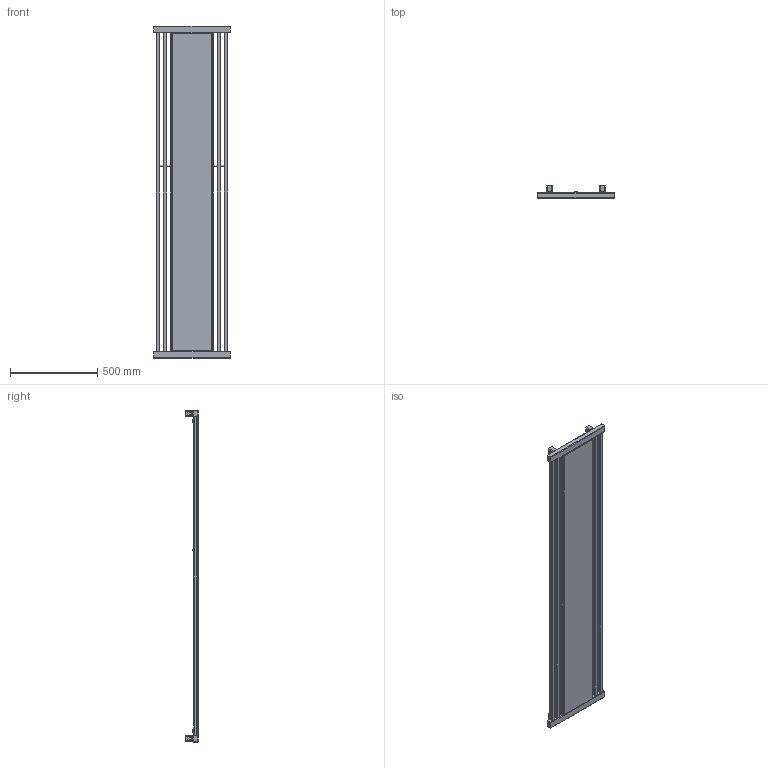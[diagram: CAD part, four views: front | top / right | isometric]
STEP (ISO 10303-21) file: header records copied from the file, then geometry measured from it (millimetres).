
FILE_DESCRIPTION((''),'2;1');
FILE_NAME('Z:\R\G\P\RGPH04 - Grzejnik Intra\Work\Inventor\Marketing\STEP\IN 19-44-ZX.stp','2012-07-25T14:47:22',('PioRo'),(''),'Autodesk Inventor 2012','Autodesk Inventor 2012','');
FILE_SCHEMA(('CONFIG_CONTROL_DESIGN'));
Length unit declared in the file: millimetre
Products named in the file (1): Część3
Bounding box: 440 x 74 x 1900 mm (x, y, z)
Volume: 11540711.9 mm3; surface area: 2196270.5 mm2
Topology: 10 solids, 10 shells, 538 faces, 1309 edges, 820 vertices
Faces by surface type: plane 243, cylinder 209, bspline 72, cone 8, torus 6
Full cylindrical faces by diameter (mm): 4.134 x4, 8 x4, 10 x4, 12 x10, 13 x2
Entity records: 18987 total; most frequent: CARTESIAN_POINT 5993, ORIENTED_EDGE 2516, DIRECTION 2512, EDGE_CURVE 1258, AXIS2_PLACEMENT_3D 899, VERTEX_POINT 812, VECTOR 714, LINE 714
